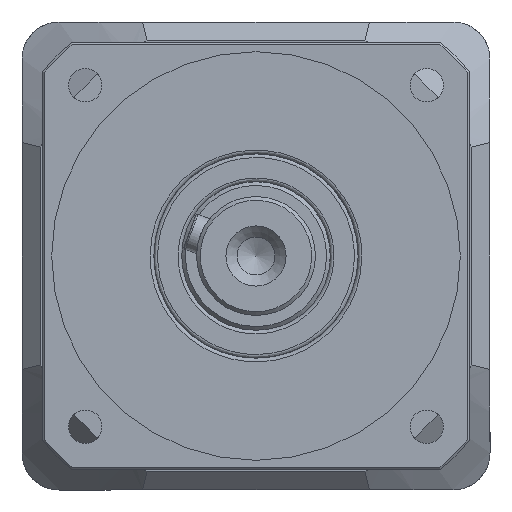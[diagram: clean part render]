
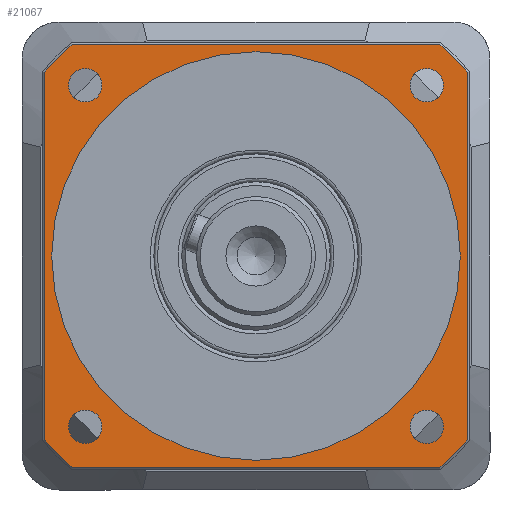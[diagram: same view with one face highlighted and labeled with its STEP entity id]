
A CAD part, front view. The second image highlights one B-rep face of the part: STEP entity #21067.
In plain terms, the highlighted planar face has unit normal (0, -1, 0).
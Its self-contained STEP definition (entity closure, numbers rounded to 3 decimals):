
#452 = DIRECTION ( 'NONE',  ( -1., 0., 0. ) ) ;
#1402 = EDGE_CURVE ( 'NONE', #20289, #20289, #27201, .T. ) ;
#1636 = EDGE_CURVE ( 'NONE', #27866, #39803, #12498, .T. ) ;
#1673 = CARTESIAN_POINT ( 'NONE',  ( 48.609, 12.247, 214.256 ) ) ;
#2069 = CARTESIAN_POINT ( 'NONE',  ( 41.119, 12.247, 213.756 ) ) ;
#2454 = EDGE_LOOP ( 'NONE', ( #50321 ) ) ;
#2466 = CARTESIAN_POINT ( 'NONE',  ( 48.609, 12.247, 206.266 ) ) ;
#2710 = CIRCLE ( 'NONE', #57360, 4.5 ) ;
#3530 = CIRCLE ( 'NONE', #26607, 55. ) ;
#3900 = EDGE_CURVE ( 'NONE', #46944, #10835, #7696, .T. ) ;
#4789 = DIRECTION ( 'NONE',  ( 1., 0., 0. ) ) ;
#4800 = ORIENTED_EDGE ( 'NONE', *, *, #53967, .F. ) ;
#6454 = CARTESIAN_POINT ( 'NONE',  ( -65.891, 12.247, 99.756 ) ) ;
#7696 = LINE ( 'NONE', #1673, #55111 ) ;
#8076 = CIRCLE ( 'NONE', #31366, 4.5 ) ;
#8245 = EDGE_LOOP ( 'NONE', ( #4800 ) ) ;
#9074 = VERTEX_POINT ( 'NONE', #2069 ) ;
#9272 = CARTESIAN_POINT ( 'NONE',  ( 42.071, 12.247, 202.718 ) ) ;
#9715 = DIRECTION ( 'NONE',  ( 0., 0., 1. ) ) ;
#10134 = EDGE_LOOP ( 'NONE', ( #46008 ) ) ;
#10195 = CARTESIAN_POINT ( 'NONE',  ( -65.391, 12.247, 107.246 ) ) ;
#10334 = ORIENTED_EDGE ( 'NONE', *, *, #40041, .F. ) ;
#10808 = DIRECTION ( 'NONE',  ( 0., -1., 0. ) ) ;
#10835 = VERTEX_POINT ( 'NONE', #27814 ) ;
#10942 = ORIENTED_EDGE ( 'NONE', *, *, #56855, .F. ) ;
#11256 = EDGE_CURVE ( 'NONE', #15278, #15278, #2710, .T. ) ;
#11499 = EDGE_CURVE ( 'NONE', #32505, #56542, #21713, .T. ) ;
#11657 = AXIS2_PLACEMENT_3D ( 'NONE', #55932, #49911, #43923 ) ;
#12498 = LINE ( 'NONE', #6454, #56688 ) ;
#12804 = CARTESIAN_POINT ( 'NONE',  ( -49.853, 12.247, 110.794 ) ) ;
#12825 = CIRCLE ( 'NONE', #50375, 75.5 ) ;
#13298 = DIRECTION ( 'NONE',  ( -1., 0., 0. ) ) ;
#14322 = CARTESIAN_POINT ( 'NONE',  ( 42.071, 12.247, 110.794 ) ) ;
#14338 = DIRECTION ( 'NONE',  ( 1., 0., 0. ) ) ;
#14575 = ORIENTED_EDGE ( 'NONE', *, *, #3900, .F. ) ;
#14704 = DIRECTION ( 'NONE',  ( 1., 0., 0. ) ) ;
#14919 = EDGE_CURVE ( 'NONE', #56542, #46127, #12825, .T. ) ;
#15278 = VERTEX_POINT ( 'NONE', #9272 ) ;
#15612 = AXIS2_PLACEMENT_3D ( 'NONE', #34781, #10808, #4789 ) ;
#15653 = CIRCLE ( 'NONE', #15612, 4.5 ) ;
#15724 = CARTESIAN_POINT ( 'NONE',  ( -65.391, 12.247, 214.256 ) ) ;
#16702 = ORIENTED_EDGE ( 'NONE', *, *, #22111, .F. ) ;
#18793 = VERTEX_POINT ( 'NONE', #12804 ) ;
#19061 = CARTESIAN_POINT ( 'NONE',  ( -63.391, 12.247, 156.756 ) ) ;
#19268 = DIRECTION ( 'NONE',  ( 0., 1., 0. ) ) ;
#20289 = VERTEX_POINT ( 'NONE', #14322 ) ;
#20308 = CARTESIAN_POINT ( 'NONE',  ( -65.891, 12.247, 213.756 ) ) ;
#20542 = AXIS2_PLACEMENT_3D ( 'NONE', #36930, #30954, #24968 ) ;
#20683 = DIRECTION ( 'NONE',  ( 0., -1., 0. ) ) ;
#21067 = ADVANCED_FACE ( 'NONE', ( #40163, #35650, #44698, #47694, #50738, #53792 ), #49228, .F. ) ;
#21235 = DIRECTION ( 'NONE',  ( -1., 0., 0. ) ) ;
#21713 = LINE ( 'NONE', #15724, #57749 ) ;
#22111 = EDGE_CURVE ( 'NONE', #18793, #18793, #15653, .T. ) ;
#23659 = DIRECTION ( 'NONE',  ( -1., 0., 0. ) ) ;
#24968 = DIRECTION ( 'NONE',  ( 1., 0., 0. ) ) ;
#25054 = VERTEX_POINT ( 'NONE', #19061 ) ;
#25271 = CARTESIAN_POINT ( 'NONE',  ( -65.891, 12.247, 214.256 ) ) ;
#25742 = AXIS2_PLACEMENT_3D ( 'NONE', #45197, #27251, #21235 ) ;
#26321 = LINE ( 'NONE', #20308, #43924 ) ;
#26607 = AXIS2_PLACEMENT_3D ( 'NONE', #35646, #29636, #23659 ) ;
#26699 = CARTESIAN_POINT ( 'NONE',  ( 37.571, 12.247, 202.718 ) ) ;
#27201 = CIRCLE ( 'NONE', #20542, 4.5 ) ;
#27251 = DIRECTION ( 'NONE',  ( 0., 1., 0. ) ) ;
#27814 = CARTESIAN_POINT ( 'NONE',  ( 48.609, 12.247, 107.246 ) ) ;
#27866 = VERTEX_POINT ( 'NONE', #50725 ) ;
#29636 = DIRECTION ( 'NONE',  ( 0., -1., 0. ) ) ;
#30490 = DIRECTION ( 'NONE',  ( -1., 0., 0. ) ) ;
#30954 = DIRECTION ( 'NONE',  ( 0., -1., 0. ) ) ;
#31224 = AXIS2_PLACEMENT_3D ( 'NONE', #42455, #36470, #30490 ) ;
#31366 = AXIS2_PLACEMENT_3D ( 'NONE', #55756, #49742, #43744 ) ;
#32177 = CARTESIAN_POINT ( 'NONE',  ( -57.901, 12.247, 213.756 ) ) ;
#32505 = VERTEX_POINT ( 'NONE', #10195 ) ;
#32520 = CARTESIAN_POINT ( 'NONE',  ( -57.901, 12.247, 99.756 ) ) ;
#33452 = EDGE_LOOP ( 'NONE', ( #48630, #14575, #10334, #39142, #37389, #52764, #10942, #41952 ) ) ;
#34595 = CARTESIAN_POINT ( 'NONE',  ( -49.853, 12.247, 202.718 ) ) ;
#34781 = CARTESIAN_POINT ( 'NONE',  ( -54.353, 12.247, 110.794 ) ) ;
#35268 = ORIENTED_EDGE ( 'NONE', *, *, #36202, .F. ) ;
#35646 = CARTESIAN_POINT ( 'NONE',  ( -8.391, 12.247, 156.756 ) ) ;
#35650 = FACE_BOUND ( 'NONE', #2454, .T. ) ;
#35731 = DIRECTION ( 'NONE',  ( -1., 0., 0. ) ) ;
#35927 = CIRCLE ( 'NONE', #25742, 75.5 ) ;
#36202 = EDGE_CURVE ( 'NONE', #40575, #40575, #8076, .T. ) ;
#36470 = DIRECTION ( 'NONE',  ( 0., 1., 0. ) ) ;
#36930 = CARTESIAN_POINT ( 'NONE',  ( 37.571, 12.247, 110.794 ) ) ;
#37218 = EDGE_CURVE ( 'NONE', #46127, #9074, #26321, .T. ) ;
#37389 = ORIENTED_EDGE ( 'NONE', *, *, #14919, .F. ) ;
#37428 = CIRCLE ( 'NONE', #31224, 75.5 ) ;
#39142 = ORIENTED_EDGE ( 'NONE', *, *, #37218, .F. ) ;
#39803 = VERTEX_POINT ( 'NONE', #32520 ) ;
#40041 = EDGE_CURVE ( 'NONE', #9074, #46944, #45140, .T. ) ;
#40163 = FACE_OUTER_BOUND ( 'NONE', #33452, .T. ) ;
#40575 = VERTEX_POINT ( 'NONE', #34595 ) ;
#41697 = DIRECTION ( 'NONE',  ( 0., 1., 0. ) ) ;
#41952 = ORIENTED_EDGE ( 'NONE', *, *, #1636, .F. ) ;
#42455 = CARTESIAN_POINT ( 'NONE',  ( -8.391, 12.247, 156.756 ) ) ;
#43176 = AXIS2_PLACEMENT_3D ( 'NONE', #25271, #19268, #13298 ) ;
#43744 = DIRECTION ( 'NONE',  ( 1., 0., 0. ) ) ;
#43923 = DIRECTION ( 'NONE',  ( -1., 0., 0. ) ) ;
#43924 = VECTOR ( 'NONE', #14338, 1000. ) ;
#44698 = FACE_BOUND ( 'NONE', #44787, .T. ) ;
#44787 = EDGE_LOOP ( 'NONE', ( #16702 ) ) ;
#45140 = CIRCLE ( 'NONE', #11657, 75.5 ) ;
#45197 = CARTESIAN_POINT ( 'NONE',  ( -8.391, 12.247, 156.756 ) ) ;
#45574 = EDGE_CURVE ( 'NONE', #10835, #27866, #37428, .T. ) ;
#46008 = ORIENTED_EDGE ( 'NONE', *, *, #11256, .F. ) ;
#46127 = VERTEX_POINT ( 'NONE', #32177 ) ;
#46944 = VERTEX_POINT ( 'NONE', #2466 ) ;
#47683 = CARTESIAN_POINT ( 'NONE',  ( -8.391, 12.247, 156.756 ) ) ;
#47694 = FACE_BOUND ( 'NONE', #52774, .T. ) ;
#48630 = ORIENTED_EDGE ( 'NONE', *, *, #45574, .F. ) ;
#49228 = PLANE ( 'NONE',  #43176 ) ;
#49742 = DIRECTION ( 'NONE',  ( 0., -1., 0. ) ) ;
#49911 = DIRECTION ( 'NONE',  ( 0., 1., 0. ) ) ;
#50321 = ORIENTED_EDGE ( 'NONE', *, *, #1402, .F. ) ;
#50375 = AXIS2_PLACEMENT_3D ( 'NONE', #47683, #41697, #35731 ) ;
#50725 = CARTESIAN_POINT ( 'NONE',  ( 41.119, 12.247, 99.756 ) ) ;
#50738 = FACE_BOUND ( 'NONE', #10134, .T. ) ;
#52764 = ORIENTED_EDGE ( 'NONE', *, *, #11499, .F. ) ;
#52774 = EDGE_LOOP ( 'NONE', ( #35268 ) ) ;
#53792 = FACE_BOUND ( 'NONE', #8245, .T. ) ;
#53967 = EDGE_CURVE ( 'NONE', #25054, #25054, #3530, .T. ) ;
#54275 = DIRECTION ( 'NONE',  ( 0., 0., -1. ) ) ;
#55111 = VECTOR ( 'NONE', #54275, 1000. ) ;
#55756 = CARTESIAN_POINT ( 'NONE',  ( -54.353, 12.247, 202.718 ) ) ;
#55932 = CARTESIAN_POINT ( 'NONE',  ( -8.391, 12.247, 156.756 ) ) ;
#56542 = VERTEX_POINT ( 'NONE', #57584 ) ;
#56688 = VECTOR ( 'NONE', #452, 1000. ) ;
#56855 = EDGE_CURVE ( 'NONE', #39803, #32505, #35927, .T. ) ;
#57360 = AXIS2_PLACEMENT_3D ( 'NONE', #26699, #20683, #14704 ) ;
#57584 = CARTESIAN_POINT ( 'NONE',  ( -65.391, 12.247, 206.266 ) ) ;
#57749 = VECTOR ( 'NONE', #9715, 1000. ) ;
